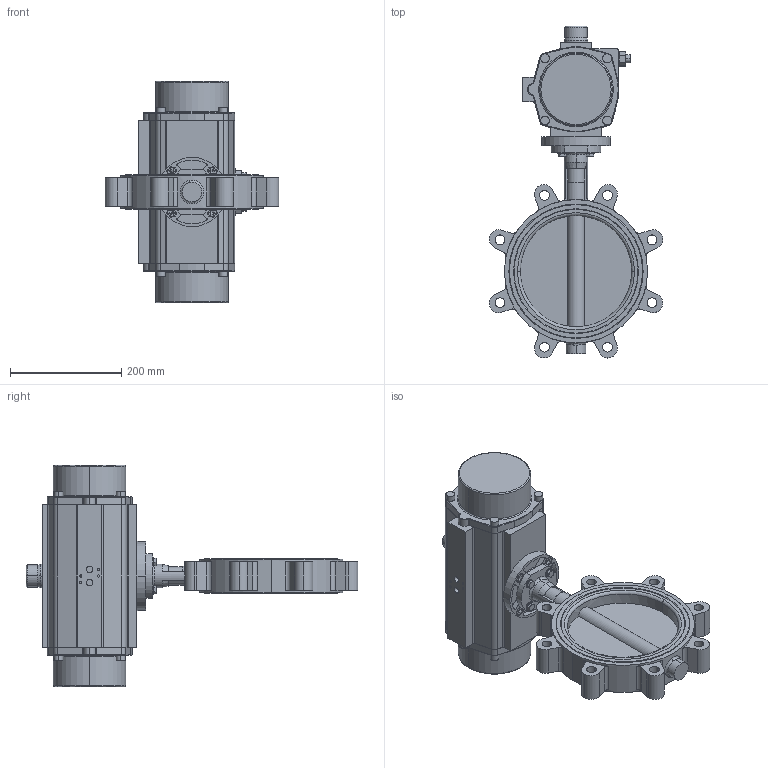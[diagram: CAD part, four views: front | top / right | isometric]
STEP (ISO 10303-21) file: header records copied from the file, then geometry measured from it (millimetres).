
FILE_DESCRIPTION (( 'STEP AP214' ), '1' );
FILE_NAME ('67352.step', '2020-10-23T12:38:37', ( '' ), ( '' ), 'SwSTEP 2.0', 'SolidWorks 2019', '' );
FILE_SCHEMA (( 'AUTOMOTIVE_DESIGN' ));
Length unit declared in the file: millimetre
Products named in the file (10): SR0500-V22_02; Zyl-Schr In-6kt DIN 912_M10x20; 67337_20x20x1.5 - L=16; 67352; 66383; 6kt-Schr DIN 933_M8x30; 6kt-Mu DIN 934_M8; TL20-0200_M01; Achtkantreduktion 22-17 mm; U-Scheibe DIN 125 A_M8
Assembly tree (21 placements, depth 2):
  67352
    TL20-0200_M01
    SR0500-V22_02
    U-Scheibe DIN 125 A_M8  x4
    6kt-Schr DIN 933_M8x30  x4
    Achtkantreduktion 22-17 mm
    66383
    67337_20x20x1.5 - L=16
    6kt-Mu DIN 934_M8  x4
    Zyl-Schr In-6kt DIN 912_M10x20  x4
Bounding box: 311.15 x 595.57 x 397 mm (x, y, z)
Volume: 10395111.1 mm3; surface area: 632883.8 mm2
Topology: 23 solids, 23 shells, 969 faces, 2332 edges, 1473 vertices
Faces by surface type: plane 461, cylinder 326, cone 116, torus 38, bspline 28
Entity records: 26182 total; most frequent: CARTESIAN_POINT 5742, DIRECTION 3921, ORIENTED_EDGE 3628, EDGE_CURVE 1814, AXIS2_PLACEMENT_3D 1480, VERTEX_POINT 1170, VECTOR 961, LINE 961
